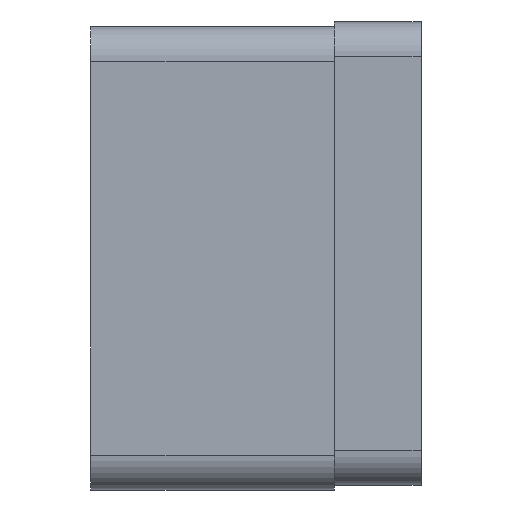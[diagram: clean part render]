
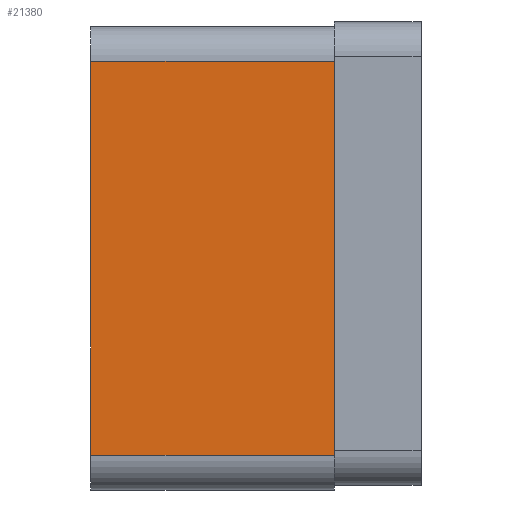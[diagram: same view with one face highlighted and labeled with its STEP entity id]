
A CAD part, left-side view. The second image highlights one B-rep face of the part: STEP entity #21380.
In plain terms, the highlighted planar face has unit normal (-1, 0, 0) as drawn and (1, 0, 0) by its records, which use the part's own axes.
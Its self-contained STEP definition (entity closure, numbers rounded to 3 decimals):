
#1050 = CARTESIAN_POINT ( 'NONE',  ( 87.5, 42., -40. ) ) ;
#1137 = LINE ( 'NONE', #2947, #13883 ) ;
#1281 = PLANE ( 'NONE',  #18558 ) ;
#1513 = VECTOR ( 'NONE', #13951, 1000. ) ;
#2947 = CARTESIAN_POINT ( 'NONE',  ( 87.5, 42., -40. ) ) ;
#2970 = DIRECTION ( 'NONE',  ( -1., 0., 0. ) ) ;
#3390 = VERTEX_POINT ( 'NONE', #12575 ) ;
#4092 = CARTESIAN_POINT ( 'NONE',  ( 87.5, 0., -40. ) ) ;
#4205 = EDGE_CURVE ( 'NONE', #23193, #8629, #22551, .T. ) ;
#4439 = ORIENTED_EDGE ( 'NONE', *, *, #22724, .F. ) ;
#4639 = DIRECTION ( 'NONE',  ( 0., 0., -1. ) ) ;
#5178 = EDGE_CURVE ( 'NONE', #5746, #3390, #19606, .T. ) ;
#5746 = VERTEX_POINT ( 'NONE', #15591 ) ;
#6078 = CARTESIAN_POINT ( 'NONE',  ( 87.5, 42., 34. ) ) ;
#7636 = DIRECTION ( 'NONE',  ( 0., -1., 0. ) ) ;
#8380 = ORIENTED_EDGE ( 'NONE', *, *, #12145, .T. ) ;
#8495 = DIRECTION ( 'NONE',  ( 0., 0., 1. ) ) ;
#8629 = VERTEX_POINT ( 'NONE', #17046 ) ;
#8862 = EDGE_LOOP ( 'NONE', ( #8380, #9663, #4439, #11426 ) ) ;
#8920 = CARTESIAN_POINT ( 'NONE',  ( 87.5, 42., 34. ) ) ;
#9663 = ORIENTED_EDGE ( 'NONE', *, *, #5178, .T. ) ;
#11062 = VECTOR ( 'NONE', #7636, 1000. ) ;
#11426 = ORIENTED_EDGE ( 'NONE', *, *, #4205, .T. ) ;
#11903 = LINE ( 'NONE', #4092, #12297 ) ;
#12145 = EDGE_CURVE ( 'NONE', #8629, #5746, #11903, .T. ) ;
#12297 = VECTOR ( 'NONE', #22751, 1000. ) ;
#12575 = CARTESIAN_POINT ( 'NONE',  ( 87.5, 42., -34. ) ) ;
#13883 = VECTOR ( 'NONE', #4639, 1000. ) ;
#13951 = DIRECTION ( 'NONE',  ( 0., 1., 0. ) ) ;
#15591 = CARTESIAN_POINT ( 'NONE',  ( 87.5, 0., -34. ) ) ;
#16103 = CARTESIAN_POINT ( 'NONE',  ( 87.5, 42., -34. ) ) ;
#17046 = CARTESIAN_POINT ( 'NONE',  ( 87.5, 0., 34. ) ) ;
#18558 = AXIS2_PLACEMENT_3D ( 'NONE', #1050, #2970, #8495 ) ;
#19606 = LINE ( 'NONE', #16103, #1513 ) ;
#21277 = FACE_OUTER_BOUND ( 'NONE', #8862, .T. ) ;
#21380 = ADVANCED_FACE ( 'NONE', ( #21277 ), #1281, .F. ) ;
#22551 = LINE ( 'NONE', #6078, #11062 ) ;
#22724 = EDGE_CURVE ( 'NONE', #23193, #3390, #1137, .T. ) ;
#22751 = DIRECTION ( 'NONE',  ( 0., 0., -1. ) ) ;
#23193 = VERTEX_POINT ( 'NONE', #8920 ) ;
